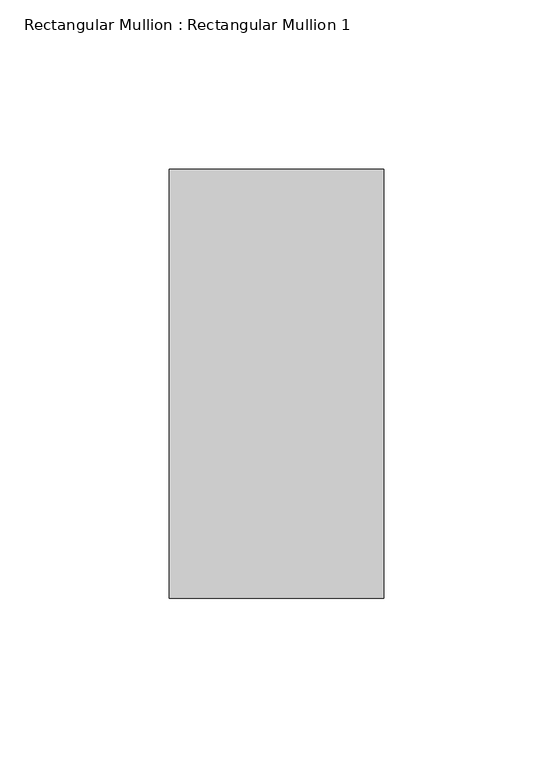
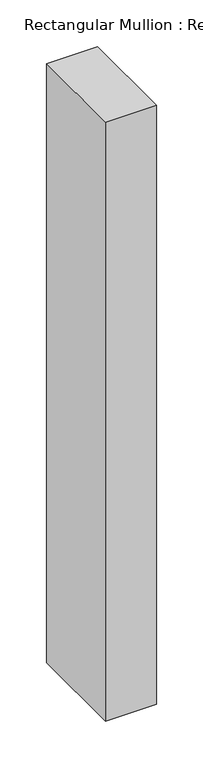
"""IFC4 building model written with IfcOpenShell, lengths in millimetres: member geometry, Rectangular Mullion : Rectangular Mullion 1."""

from ifc_helpers import new_model, si_unit, frame, origin, place, context, project, spatial, polyline, outline, extrude, source, transform, mapped, element, save


def rectangular_mullion_rectangular_mullion_1_a5d18ad9(model_context):
    return source(origin(), model_context, "Body", "SweptSolid", [
        extrude(outline(polyline([(31.75, 63.5), (31.75, -63.5), (-31.75, -63.5), (-31.75, 63.5), (31.75, 63.5)])), frame((0.0, 0.0, -785.3891834), z_axis=(0.0, 0.0, 1.0), x_axis=(1.0, 0.0, 0.0)), (0.0, 0.0, 1.0), 785.3891834),
    ])


if __name__ == "__main__":
    model = new_model("IFC4")
    model_context = context("Model", 3, world=origin())
    ifc_project = project(units=[si_unit("LENGTHUNIT", "METRE", prefix="MILLI")], contexts=[model_context])
    site = spatial("IfcSite", under=ifc_project)
    building = spatial("IfcBuilding", under=site)
    placement = place(None, origin())
    rectangular_mullion_rectangular_mullion_1_shape = rectangular_mullion_rectangular_mullion_1_a5d18ad9(model_context)
    element("IfcMember", 1, ObjectType="Rectangular Mullion : Rectangular Mullion 1", at=placement, inside=building, context=model_context, shape_type="MappedRepresentation", body=[
        mapped(rectangular_mullion_rectangular_mullion_1_shape, transform((0.0, 0.0, 0.0), x_axis=(1.0, 0.0, 0.0), y_axis=(0.0, 1.0, 0.0), z_axis=(0.0, 0.0, 1.0))),
    ])
    save(model, "model.ifc")
